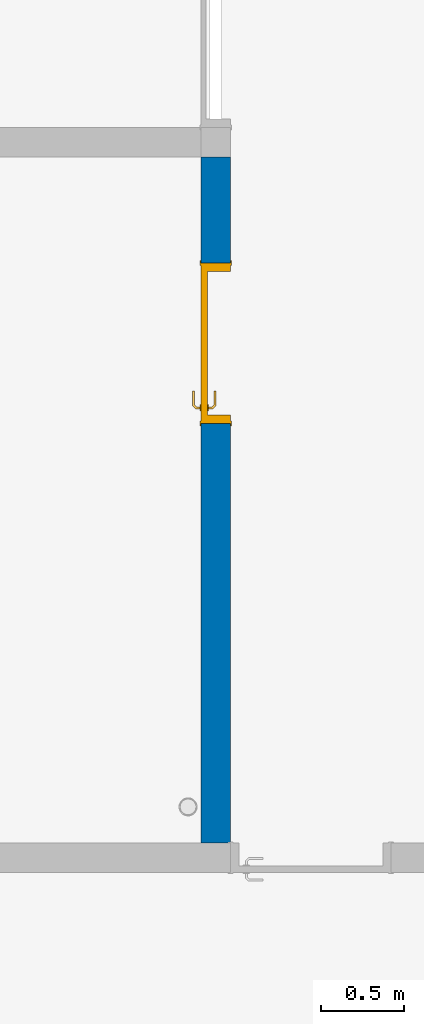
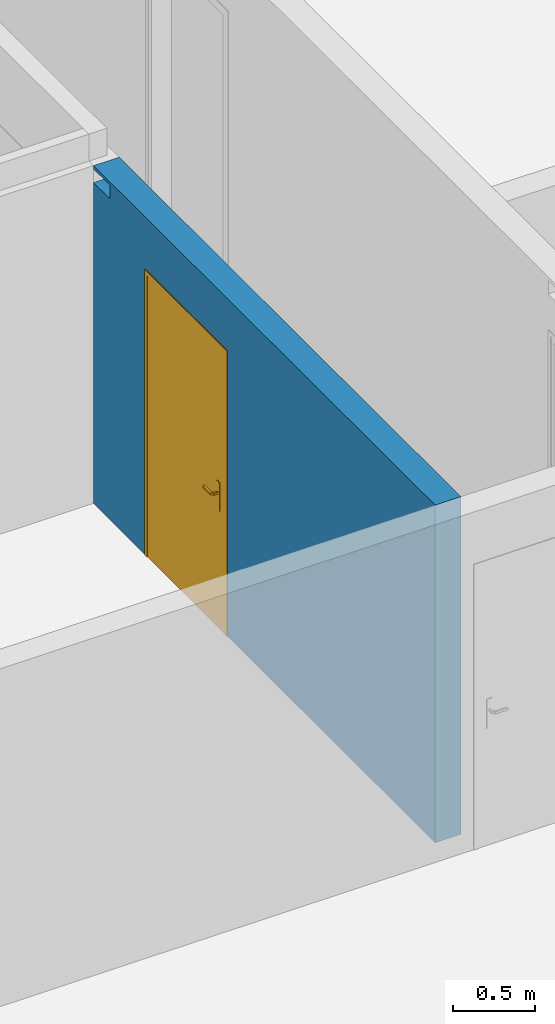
# One storey, part 4 of 30: 1 door, 1 wall, 2 openings.
"""IFC2X3 building model written with IfcOpenShell, lengths in centimetres."""

import ifcopenshell
import ifcopenshell.guid

model = None  # the IFC model being written
_history = None  # IfcOwnerHistory: only IFC2X3 demands one
_inside = {}  # id of a spatial element -> (the spatial element, [elements in it])
_under = {}  # id of a project, library or spatial element -> (it, [spatial elements below it])
_declared = {}  # id of a project -> (the project, [libraries it declares])
_typed = {}  # id of a type object -> (the type object, [elements of that type])
_made_of = {}  # id of a material, layer set ... -> (it, [elements and type objects made of it])


def new_model(schema):
    """Start an empty IFC model of exactly this schema.

    Asked for "IFC4X3", IfcOpenShell would pick the latest addendum, in which some entities
    have other attributes; the version numbers below select the first issue.
    IFC2X3 requires an IfcOwnerHistory on every rooted entity: one is made here for all.
    """
    global model, _history
    if schema == "IFC4X3":
        model = ifcopenshell.file(schema_version=(4, 3, 0, 0))
    else:
        model = ifcopenshell.file(schema=schema)
    _inside.clear()
    _under.clear()
    _declared.clear()
    _typed.clear()
    _made_of.clear()
    _history = None
    if model.schema == "IFC2X3":
        org = make("IfcOrganization", Name="unknown")
        user = make(
            "IfcPersonAndOrganization",
            ThePerson=make("IfcPerson", FamilyName="unknown"),
            TheOrganization=org,
        )
        app = make(
            "IfcApplication",
            ApplicationDeveloper=org,
            Version="unknown",
            ApplicationFullName="unknown",
            ApplicationIdentifier="unknown",
        )
        _history = make(
            "IfcOwnerHistory",
            OwningUser=user,
            OwningApplication=app,
            ChangeAction="ADDED",
            CreationDate=0,
        )
    return model


def make(cls, **values):
    """One entity of the class cls with the attributes given. An attribute that is None is left unset."""
    return model.create_entity(
        cls, **{name: value for name, value in values.items() if value is not None}
    )


def entity(cls, *values):
    """Any entity or typed value of the class cls, its attributes in the order of the schema. None: left unset."""
    e = model.create_entity(cls)
    for i, value in enumerate(values):
        if value is not None:
            e[i] = value
    return e


def rooted(cls, **values):
    """An entity with a GlobalId (a new one), such as an element, a storey or a relation."""
    return make(cls, GlobalId=ifcopenshell.guid.new(), OwnerHistory=_history, **values)


def si_unit(unit_type, name, prefix=None):
    """IfcSIUnit, for example si_unit("LENGTHUNIT", "METRE", prefix="MILLI")."""
    return make("IfcSIUnit", UnitType=unit_type, Prefix=prefix, Name=name)


def converted_unit(unit_type, name, factor, base, dimensions=None, offset=None):
    """IfcConversionBasedUnit, such as the inch: factor (a typed value) times the base unit."""
    return make(
        "IfcConversionBasedUnit"
        if offset is None
        else "IfcConversionBasedUnitWithOffset",
        ConversionOffset=offset,
        Dimensions=None
        if dimensions is None
        else entity("IfcDimensionalExponents", *dimensions),
        UnitType=unit_type,
        Name=name,
        ConversionFactor=make(
            "IfcMeasureWithUnit", ValueComponent=factor, UnitComponent=base
        ),
    )


def derived_unit(unit_type, elements):
    """IfcDerivedUnit: a product of units, each with its exponent."""
    return make(
        "IfcDerivedUnit",
        Elements=[
            make("IfcDerivedUnitElement", Unit=unit, Exponent=power)
            for unit, power in elements
        ],
        UnitType=unit_type,
    )


def assignment(units):
    """IfcUnitAssignment: the units of a project."""
    return None if units is None else make("IfcUnitAssignment", Units=units)


def point(xyz):
    """IfcCartesianPoint."""
    return None if xyz is None else make("IfcCartesianPoint", Coordinates=xyz)


def direction(xyz):
    """IfcDirection."""
    return None if xyz is None else make("IfcDirection", DirectionRatios=xyz)


def frame(location, z_axis=None, x_axis=None):
    """IfcAxis2Placement3D, a coordinate frame: its origin and axes. An axis left out is left unset."""
    return make(
        "IfcAxis2Placement3D",
        Location=point(location),
        Axis=direction(z_axis),
        RefDirection=direction(x_axis),
    )


def frame_2d(location, x_axis=None):
    """IfcAxis2Placement2D, a coordinate frame in the plane: its origin and x axis."""
    return make(
        "IfcAxis2Placement2D", Location=point(location), RefDirection=direction(x_axis)
    )


def origin():
    """The frame at (0, 0, 0) with its axes left unset."""
    return frame((0.0, 0.0, 0.0))


def place(relative_to, where):
    """IfcLocalPlacement: puts the frame where relative to a parent placement (None: the world)."""
    return make(
        "IfcLocalPlacement", PlacementRelTo=relative_to, RelativePlacement=where
    )


def context(
    kind, dimensions, precision=None, world=None, true_north=None, identifier=None
):
    """IfcGeometricRepresentationContext, for example the 3D "Model" context."""
    return make(
        "IfcGeometricRepresentationContext",
        ContextIdentifier=identifier,
        ContextType=kind,
        CoordinateSpaceDimension=dimensions,
        Precision=precision,
        WorldCoordinateSystem=world,
        TrueNorth=true_north,
    )


def subcontext(parent, identifier, kind, view, scale=None):
    """IfcGeometricRepresentationSubContext, for example "Body" below "Model"."""
    return make(
        "IfcGeometricRepresentationSubContext",
        ContextIdentifier=identifier,
        ContextType=kind,
        ParentContext=parent,
        TargetScale=scale,
        TargetView=view,
    )


def project(units=None, contexts=None):
    """IfcProject with its units and contexts."""
    return rooted(
        "IfcProject",
        Name="project",
        RepresentationContexts=contexts,
        UnitsInContext=assignment(units),
    )


def spatial(cls, under=None, at=None, **own):
    """A site, building, storey or space (cls), placed at a placement, below another one or the project."""
    s = rooted(cls, ObjectPlacement=at, **own)
    if under is not None:
        _under.setdefault(under.id(), (under, []))[1].append(s)
    return s


def profile(cls, at=None, kind="AREA", **sizes):
    """A parametric profile (cls). Its sizes go by their IFC names, for example OverallWidth=200.0."""
    return make(cls, ProfileType=kind, Position=at, **sizes)


def rectangle(**sizes):
    """IfcRectangleProfileDef."""
    return profile("IfcRectangleProfileDef", **sizes)


def extrude(swept, where, along, depth):
    """IfcExtrudedAreaSolid: the profile swept, set in the frame where, extruded along a direction by depth."""
    return make(
        "IfcExtrudedAreaSolid",
        SweptArea=swept,
        Position=where,
        ExtrudedDirection=direction(along),
        Depth=depth,
    )


def faces_of(points, faces, orient=None, outer=None):
    """IfcFace entities. A face is a list of loops; a loop is a list of indices into points, from 0.

    orient and outer hold one flag for each loop. By default every Orientation is true, the
    first loop of a face is its IfcFaceOuterBound and the others are IfcFaceBound.
    """
    made = []
    for i, loops in enumerate(faces):
        bounds = []
        for j, loop in enumerate(loops):
            is_outer = j == 0 if outer is None else outer[i][j]
            bounds.append(
                make(
                    "IfcFaceOuterBound" if is_outer else "IfcFaceBound",
                    Bound=make("IfcPolyLoop", Polygon=[points[k] for k in loop]),
                    Orientation=True if orient is None else orient[i][j],
                )
            )
        made.append(make("IfcFace", Bounds=bounds))
    return made


def faceted_brep(points, faces, orient=None, outer=None, voids=None):
    """IfcFacetedBrep: a solid bounded by flat faces; with voids (closed shells), ...WithVoids."""
    shared = [point(p) for p in points]
    hull = make("IfcClosedShell", CfsFaces=faces_of(shared, faces, orient, outer))
    if voids is None:
        return make("IfcFacetedBrep", Outer=hull)
    return make(
        "IfcFacetedBrepWithVoids",
        Outer=hull,
        Voids=[
            make(cls, CfsFaces=faces_of(shared, fs, o, b)) for cls, fs, o, b in voids
        ],
    )


def shape(context_of_items, identifier, shape_type, items):
    """IfcShapeRepresentation: the items that make up one representation, for example the "Body"."""
    return make(
        "IfcShapeRepresentation",
        ContextOfItems=context_of_items,
        RepresentationIdentifier=identifier,
        RepresentationType=shape_type,
        Items=items,
    )


def source(mapping_origin, context_of_items, identifier, shape_type, items):
    """IfcRepresentationMap: a shape defined once, which mapped items show again and again."""
    return make(
        "IfcRepresentationMap",
        MappingOrigin=mapping_origin,
        MappedRepresentation=shape(context_of_items, identifier, shape_type, items),
    )


def transform(
    local_origin,
    x_axis=None,
    y_axis=None,
    z_axis=None,
    scale=None,
    scale2=None,
    scale3=None,
    uniform=True,
):
    """IfcCartesianTransformationOperator3D, or its non-uniform kind. x_axis, y_axis, z_axis: its Axis1, 2, 3."""
    if uniform:
        return make(
            "IfcCartesianTransformationOperator3D",
            Axis1=direction(x_axis),
            Axis2=direction(y_axis),
            LocalOrigin=point(local_origin),
            Scale=scale,
            Axis3=direction(z_axis),
        )
    return make(
        "IfcCartesianTransformationOperator3DnonUniform",
        Axis1=direction(x_axis),
        Axis2=direction(y_axis),
        LocalOrigin=point(local_origin),
        Scale=scale,
        Axis3=direction(z_axis),
        Scale2=scale2,
        Scale3=scale3,
    )


def mapped(mapping_source, mapping_target):
    """IfcMappedItem: shows the shape of a source again, moved by a transform."""
    return make(
        "IfcMappedItem", MappingSource=mapping_source, MappingTarget=mapping_target
    )


def material(Name=None, Category=None):
    """IfcMaterial."""
    return make("IfcMaterial", Name=Name, Category=Category)


def material_list(materials):
    """IfcMaterialList."""
    return make("IfcMaterialList", Materials=materials)


def layer(
    of_material, thickness, ventilated=None, Name=None, Category=None, Priority=None
):
    """IfcMaterialLayer: one layer of a wall or slab, of a material (None: an air gap)."""
    return make(
        "IfcMaterialLayer",
        Material=of_material,
        LayerThickness=thickness,
        IsVentilated=ventilated,
        Name=Name,
        Category=Category,
        Priority=Priority,
    )


def layer_set(layers, Name=None):
    """IfcMaterialLayerSet."""
    return make("IfcMaterialLayerSet", MaterialLayers=layers, LayerSetName=Name)


def layer_usage(for_layer_set, set_direction, sense, offset, extent=None):
    """IfcMaterialLayerSetUsage: how a layer set lies in its element."""
    return make(
        "IfcMaterialLayerSetUsage",
        ForLayerSet=for_layer_set,
        LayerSetDirection=set_direction,
        DirectionSense=sense,
        OffsetFromReferenceLine=offset,
        ReferenceExtent=extent,
    )


def made_of(thing, what):
    """Note that an element or type object is made of a material, layer set ...; save() writes the relation."""
    if what is not None:
        _made_of.setdefault(what.id(), (what, []))[1].append(thing)
    return thing


def type_object(cls, material=None, **own):
    """A type object (cls), such as IfcWallType, which elements share."""
    return made_of(rooted(cls, **own), material)


def type_shapes(of_type, sources):
    """Give a type object the sources (RepresentationMaps) that its elements show as mapped items."""
    of_type.RepresentationMaps = sources


def element(
    cls,
    number,
    at=None,
    inside=None,
    cuts=None,
    type_object=None,
    material=None,
    context=None,
    identifier="Body",
    shape_type=None,
    held_by="IfcProductDefinitionShape",
    body=None,
    shapes=None,
    **own,
):
    """One element of the class cls, such as IfcWall. Its Tag is "e" and its number.

    at: its placement. inside: the storey or other place that contains it. cuts: it is an
    opening in that element (IfcRelVoidsElement). A single representation is given by context,
    identifier, shape_type and body (its items); several are given by shapes. held_by: the class
    of the entity that holds the representations. save() writes the other relations.
    """
    e = rooted(cls, Tag="e%d" % number, ObjectPlacement=at, **own)
    if body is not None:
        shapes = [shape(context, identifier, shape_type, body)]
    if shapes is not None:
        e.Representation = make(held_by, Representations=shapes)
    if inside is not None:
        _inside.setdefault(inside.id(), (inside, []))[1].append(e)
    if cuts is not None:
        rooted(
            "IfcRelVoidsElement", RelatingBuildingElement=cuts, RelatedOpeningElement=e
        )
    if type_object is not None:
        _typed.setdefault(type_object.id(), (type_object, []))[1].append(e)
    return made_of(e, material)


def fill(opening, filler):
    """IfcRelFillsElement: the door or window that sits in an opening."""
    return rooted(
        "IfcRelFillsElement",
        RelatingOpeningElement=opening,
        RelatedBuildingElement=filler,
    )


def aggregate(whole, parts):
    """IfcRelAggregates: a whole, such as a stair, and the parts it consists of."""
    return rooted("IfcRelAggregates", RelatingObject=whole, RelatedObjects=parts)


def save(model, path):
    """Write the relations noted so far, then the file.

    IfcRelAggregates (storeys below a building ...), IfcRelContainedInSpatialStructure (elements
    in a storey), IfcRelDefinesByType, IfcRelAssociatesMaterial and IfcRelDeclares: one each for
    every whole, place, type object, material and project.
    """
    for whole, parts in _under.values():
        aggregate(whole, parts)
    for where, things in _inside.values():
        rooted(
            "IfcRelContainedInSpatialStructure",
            RelatedElements=things,
            RelatingStructure=where,
        )
    for kind, things in _typed.values():
        rooted("IfcRelDefinesByType", RelatedObjects=things, RelatingType=kind)
    for what, things in _made_of.values():
        rooted("IfcRelAssociatesMaterial", RelatedObjects=things, RelatingMaterial=what)
    for by, libraries in _declared.values():
        rooted("IfcRelDeclares", RelatingContext=by, RelatedDefinitions=libraries)
    model.write(path)


model = new_model("IFC2X3")

# Units and contexts
model_context = context("Model", 3, precision=0.001, world=origin(), true_north=direction((6.12303176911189e-17, 1.0)))
body_context = subcontext(model_context, "Body", "Model", "MODEL_VIEW")
ifc_project = project(units=[si_unit("LENGTHUNIT", "METRE", prefix="CENTI"), si_unit("AREAUNIT", "SQUARE_METRE"), si_unit("VOLUMEUNIT", "CUBIC_METRE"), converted_unit("PLANEANGLEUNIT", "DEGREE", entity("IfcRatioMeasure", 0.0174532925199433), si_unit("PLANEANGLEUNIT", "RADIAN"), dimensions=[0, 0, 0, 0, 0, 0, 0]), si_unit("MASSUNIT", "GRAM", prefix="KILO"), derived_unit("MASSDENSITYUNIT", [(si_unit("MASSUNIT", "GRAM", prefix="KILO"), 1), (si_unit("LENGTHUNIT", "METRE"), -3)]), si_unit("TIMEUNIT", "SECOND"), si_unit("FREQUENCYUNIT", "HERTZ"), si_unit("THERMODYNAMICTEMPERATUREUNIT", "DEGREE_CELSIUS"), derived_unit("THERMALTRANSMITTANCEUNIT", [(si_unit("MASSUNIT", "GRAM", prefix="KILO"), 1), (si_unit("THERMODYNAMICTEMPERATUREUNIT", "KELVIN"), -1), (si_unit("TIMEUNIT", "SECOND"), -3)]), derived_unit("VOLUMETRICFLOWRATEUNIT", [(si_unit("LENGTHUNIT", "METRE"), 3), (si_unit("TIMEUNIT", "SECOND"), -1)]), si_unit("ELECTRICCURRENTUNIT", "AMPERE"), si_unit("ELECTRICVOLTAGEUNIT", "VOLT"), si_unit("POWERUNIT", "WATT"), si_unit("FORCEUNIT", "NEWTON"), si_unit("ILLUMINANCEUNIT", "LUX"), si_unit("LUMINOUSFLUXUNIT", "LUMEN"), si_unit("LUMINOUSINTENSITYUNIT", "CANDELA"), derived_unit("USERDEFINED", [(si_unit("MASSUNIT", "GRAM", prefix="KILO"), -1), (si_unit("LENGTHUNIT", "METRE"), -2), (si_unit("TIMEUNIT", "SECOND"), 3), (si_unit("LUMINOUSFLUXUNIT", "LUMEN"), 1)]), derived_unit("LINEARVELOCITYUNIT", [(si_unit("LENGTHUNIT", "METRE"), 1), (si_unit("TIMEUNIT", "SECOND"), -1)]), si_unit("PRESSUREUNIT", "PASCAL"), derived_unit("USERDEFINED", [(si_unit("LENGTHUNIT", "METRE"), -2), (si_unit("MASSUNIT", "GRAM", prefix="KILO"), 1), (si_unit("TIMEUNIT", "SECOND"), -2)])], contexts=[model_context])

# Site, building, storey
site_placement = place(None, origin())
site = spatial("IfcSite", under=ifc_project, at=site_placement, Name="Default", CompositionType="ELEMENT")
building_placement = place(site_placement, origin())
building = spatial("IfcBuilding", under=site, at=building_placement, Name="CAGE 03", CompositionType="ELEMENT")
storey_placement = place(building_placement, frame((0.0, 0.0, 610.0)))
storey = spatial("IfcBuildingStorey", under=building, at=storey_placement, Name="R+2", CompositionType="ELEMENT", Elevation=610.0)

# Wall, openings, door
ifc_material_1 = material(Name="Béton, C25/30")
ifc_layer = layer(ifc_material_1, 18.0)
ifc_layer_set = layer_set([ifc_layer], Name="Mur de base:Voile BA 18")
ifc_layer_usage = layer_usage(ifc_layer_set, "AXIS2", "NEGATIVE", 9.0)
wall_type = type_object("IfcWallType", Name="Mur de base:Voile BA 18", PredefinedType="STANDARD", material=ifc_layer_set)
wall_placement = place(storey_placement, frame((3963.36582014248, 4632.66066607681, 0.0), z_axis=(0.0, 0.0, 1.0), x_axis=(0.0, -1.0, 0.0)))
wall = element("IfcWallStandardCase", 1, at=wall_placement, inside=storey, type_object=wall_type, material=ifc_layer_usage, Name="Mur de base:Voile BA 18", ObjectType="Mur de base:Voile BA 18", context=body_context, shape_type="SweptSolid", body=[
    extrude(rectangle(XDim=414.499999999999, YDim=17.9999999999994, at=frame_2d((207.25, 3.29514193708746e-13), x_axis=(-1.0, 0.0))), origin(), (0.0, 0.0, 1.0), 250.0),
])
opening_1_placement = place(wall_placement, origin())
element("IfcOpeningElement", 2, at=opening_1_placement, cuts=wall, Name="Mur de base:Voile BA 18", ObjectType="Opening", context=body_context, shape_type="SweptSolid", body=[
    extrude(rectangle(XDim=10.0, YDim=19.9999999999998, at=frame_2d((5.41788836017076e-14, -4.33431068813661e-13), x_axis=(1.0, 0.0))), frame((10.0, -9.0, 242.5), z_axis=(0.0, 1.0, 0.0), x_axis=(0.0, 0.0, -1.0)), (0.0, 0.0, 1.0), 17.9999999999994),
])
opening_2_placement = place(wall_placement, frame((161.0, 9.0, 0.0)))
opening_2 = element("IfcOpeningElement", 3, at=opening_2_placement, cuts=wall, Name="Int. Simple:HB93:1", ObjectType="Opening", context=body_context, shape_type="SweptSolid", body=[
    extrude(rectangle(XDim=210.000000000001, YDim=96.9999999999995, at=frame_2d((105.000000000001, 48.4999999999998), x_axis=(1.0, 0.0))), frame((0.0, 0.0, 0.0), z_axis=(0.0, -1.0, 0.0), x_axis=(0.0, 0.0, 1.0)), (0.0, 0.0, 1.0), 18.0),
])
ifc_material_2 = material(Name="Finition Peinture - Blanc satiné")
ifc_material_3 = material(Name="Bois - Panneau de porte")
ifc_material_4 = material(Name="Bois - Cadre de porte")
ifc_material_list_1 = material_list([ifc_material_2, ifc_material_3, ifc_material_4])
ifc_material_list_2 = material_list([ifc_material_2, ifc_material_3, ifc_material_4])
door_style = type_object("IfcDoorStyle", Name="HB93", ConstructionType="NOTDEFINED", OperationType="SINGLE_SWING_RIGHT", ParameterTakesPrecedence=False, Sizeable=False, material=ifc_material_list_2)
shared_shape = source(origin(), body_context, "Body", "Brep", [
    faceted_brep([(96.5000000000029, -0.500000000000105, 87.0), (96.5000000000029, -0.500000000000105, 108.0), (95.535276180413, -0.500000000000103, 108.399601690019), (94.5000000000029, -0.500000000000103, 108.535898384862), (93.4647238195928, -0.500000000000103, 108.399601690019), (92.5000000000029, -0.500000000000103, 108.0), (92.5000000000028, -0.500000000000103, 87.0), (93.4647238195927, -0.500000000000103, 86.6003983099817), (94.5000000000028, -0.500000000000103, 86.464101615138), (95.5352761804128, -0.500000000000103, 86.6003983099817), (96.5000000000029, 0.0, 108.0), (96.5000000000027, 0.0, 87.0), (95.5352761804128, 0.0, 86.6003983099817), (94.5000000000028, 0.0, 86.464101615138), (93.4647238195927, 0.0, 86.6003983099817), (92.5000000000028, 0.0, 87.0), (92.5000000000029, 0.0, 108.0), (93.4647238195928, 0.0, 108.399601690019), (94.5000000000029, 0.0, 108.535898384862), (95.535276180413, 0.0, 108.399601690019)], [[[0, 1, 2, 3, 4, 5, 6, 7, 8, 9]], [[10, 11, 12, 13, 14, 15, 16, 17, 18, 19]], [[9, 12, 11, 0]], [[8, 13, 12, 9]], [[7, 14, 13, 8]], [[7, 6, 15, 14]], [[15, 6, 5, 16]], [[4, 17, 16, 5]], [[3, 18, 17, 4]], [[2, 19, 18, 3]], [[2, 1, 10, 19]], [[11, 10, 1, 0]]]),
    faceted_brep([(96.5000000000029, 4.0, 87.0), (96.5000000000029, 4.0, 108.0), (95.535276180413, 4.0, 108.399601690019), (94.5000000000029, 4.0, 108.535898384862), (93.4647238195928, 4.0, 108.399601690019), (92.500000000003, 4.0, 108.0), (92.5000000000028, 4.0, 87.0), (93.4647238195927, 4.0, 86.6003983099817), (94.5000000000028, 4.0, 86.464101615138), (95.5352761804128, 4.0, 86.6003983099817), (94.5000000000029, 4.49999999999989, 108.535898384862), (95.535276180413, 4.49999999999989, 108.399601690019), (96.5000000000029, 4.49999999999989, 108.0), (96.5000000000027, 4.49999999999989, 87.0), (95.5352761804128, 4.49999999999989, 86.6003983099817), (94.5000000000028, 4.49999999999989, 86.464101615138), (93.4647238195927, 4.49999999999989, 86.6003983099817), (92.5000000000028, 4.4999999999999, 87.0), (92.5000000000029, 4.4999999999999, 108.0), (93.4647238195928, 4.49999999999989, 108.399601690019)], [[[0, 1, 2, 3, 4, 5, 6, 7, 8, 9]], [[10, 11, 12, 13, 14, 15, 16, 17, 18, 19]], [[4, 19, 18, 5]], [[3, 10, 19, 4]], [[2, 11, 10, 3]], [[2, 1, 12, 11]], [[13, 12, 1, 0]], [[9, 14, 13, 0]], [[8, 15, 14, 9]], [[7, 16, 15, 8]], [[7, 6, 17, 16]], [[17, 6, 5, 18]]]),
    faceted_brep([(94.2974701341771, -0.500000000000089, 100.778044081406), (94.7025298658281, -0.500000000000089, 100.778044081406), (95.100000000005, -0.500000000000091, 100.699999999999), (95.100000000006, -0.500000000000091, 99.2999999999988), (94.7025298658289, -0.500000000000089, 99.221955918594), (94.297470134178, -0.500000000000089, 99.2219559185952), (93.9000000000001, -0.500000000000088, 99.3000000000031), (93.9000000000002, -0.500000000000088, 100.7), (94.7025298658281, -3.10045754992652, 100.778044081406), (95.1000000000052, -3.26509507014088, 100.7), (94.2974701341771, -2.93267631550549, 100.778044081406), (92.9298602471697, -4.30028620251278, 100.778044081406), (93.0976414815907, -4.70534593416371, 100.778044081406), (93.9000000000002, -2.76803879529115, 100.7), (93.9000000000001, -2.76803879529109, 99.3000000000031), (94.297470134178, -2.93267631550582, 99.2219559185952), (94.7025298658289, -3.10045754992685, 99.221955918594), (93.0976414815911, -4.70534593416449, 99.221955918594), (92.9298602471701, -4.30028620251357, 99.2219559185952), (95.100000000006, -3.26509507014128, 99.2999999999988), (93.2622790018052, -5.1028160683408, 100.7), (92.7652227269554, -3.90281606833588, 100.7), (92.7652227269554, -3.90281606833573, 99.3000000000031), (93.2622790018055, -5.10281606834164, 99.2999999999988), (84.4981359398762, -5.10281606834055, 100.7), (84.4981359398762, -4.70534593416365, 100.778044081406), (84.4981359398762, -4.30028620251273, 100.778044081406), (84.4981359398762, -3.90281606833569, 100.699999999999), (84.4981359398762, -3.90281606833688, 99.3000000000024), (84.4981359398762, -4.30028620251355, 99.2219559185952), (84.4981359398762, -4.70534593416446, 99.221955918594), (84.4981359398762, -5.10281606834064, 99.2999999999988), (88.7139980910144, -4.5028160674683, 100.78786867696), (89.2692302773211, -5.1028160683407, 100.7), (88.6316793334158, -3.90281606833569, 100.7), (88.631679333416, -3.90281606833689, 99.3000000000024), (88.7139981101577, -4.50281607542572, 99.2121313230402), (89.2692310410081, -5.10281606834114, 99.2999999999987)], [[[0, 1, 2, 3, 4, 5, 6, 7]], [[2, 1, 8, 9]], [[1, 0, 10, 11, 12, 8]], [[0, 7, 13, 10]], [[14, 13, 7, 6]], [[5, 15, 14, 6]], [[5, 4, 16, 17, 18, 15]], [[3, 19, 16, 4]], [[9, 19, 3, 2]], [[9, 8, 12, 20]], [[10, 13, 21, 11]], [[22, 21, 13, 14]], [[14, 15, 18, 22]], [[16, 19, 23, 17]], [[20, 23, 19, 9]], [[24, 25, 26, 27, 28, 29, 30, 31]], [[32, 25, 33]], [[33, 25, 24]], [[33, 20, 12]], [[11, 34, 32]], [[34, 11, 21]], [[27, 26, 34]], [[32, 26, 25]], [[32, 34, 26]], [[32, 33, 12]], [[11, 32, 12]], [[21, 22, 35, 28, 27, 34]], [[36, 29, 35]], [[30, 36, 37]], [[18, 35, 22]], [[29, 28, 35]], [[30, 37, 31]], [[37, 17, 23]], [[36, 17, 37]], [[36, 18, 17]], [[36, 35, 18]], [[29, 36, 30]], [[23, 20, 33, 24, 31, 37]]]),
    faceted_brep([(94.2974701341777, 4.49999999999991, 99.2219559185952), (94.7025298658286, 4.49999999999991, 99.221955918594), (95.1000000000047, 4.49999999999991, 99.2999999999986), (95.1000000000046, 4.49999999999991, 100.7), (94.7025298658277, 4.49999999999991, 100.778044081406), (94.2974701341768, 4.49999999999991, 100.778044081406), (93.8999999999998, 4.49999999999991, 100.7), (93.900000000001, 4.49999999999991, 99.3000000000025), (93.8999999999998, 6.7485204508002, 100.7), (93.8999999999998, 6.74852045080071, 99.3000000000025), (94.2974701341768, 6.91315797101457, 100.778044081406), (94.7025298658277, 7.0809392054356, 100.778044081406), (93.0838906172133, 8.69957845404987, 100.778044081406), (92.9161093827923, 8.29451872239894, 100.778044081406), (95.1000000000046, 7.24557672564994, 100.7), (95.1000000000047, 7.24557672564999, 99.2999999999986), (94.7025298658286, 7.08093920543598, 99.221955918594), (94.2974701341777, 6.91315797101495, 99.2219559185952), (92.9161093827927, 8.29451872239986, 99.2219559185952), (93.0838906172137, 8.69957845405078, 99.221955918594), (92.751471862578, 7.89704858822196, 100.7), (92.7514718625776, 7.89704858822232, 99.3000000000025), (93.2485281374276, 9.09704858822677, 100.7), (93.2485281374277, 9.09704858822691, 99.2999999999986), (84.4954216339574, 8.29451872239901, 100.778044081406), (84.4954216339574, 8.69957845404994, 100.778044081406), (84.4954216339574, 9.09704858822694, 100.7), (84.4954216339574, 9.09704858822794, 99.2999999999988), (84.4954216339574, 8.6995784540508, 99.221955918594), (84.4954216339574, 8.29451872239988, 99.2219559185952), (84.4954216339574, 7.89704858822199, 99.3000000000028), (84.4954216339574, 7.89704858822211, 100.7), (88.6234467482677, 7.89704858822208, 100.7), (88.6234479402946, 7.89704858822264, 99.3000000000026), (88.7057655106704, 8.49704858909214, 100.78786867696), (89.255479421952, 9.09704858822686, 100.7), (89.2554795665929, 9.09704858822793, 99.2999999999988), (88.7057654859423, 8.49704858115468, 99.2121313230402)], [[[0, 1, 2, 3, 4, 5, 6, 7]], [[8, 9, 7, 6]], [[5, 10, 8, 6]], [[5, 4, 11, 12, 13, 10]], [[3, 14, 11, 4]], [[14, 3, 2, 15]], [[2, 1, 16, 15]], [[1, 0, 17, 18, 19, 16]], [[0, 7, 9, 17]], [[20, 21, 9, 8]], [[8, 10, 13, 20]], [[14, 22, 12, 11]], [[23, 22, 14, 15]], [[15, 16, 19, 23]], [[17, 9, 21, 18]], [[24, 25, 26, 27, 28, 29, 30, 31]], [[21, 20, 32, 31, 30, 33]], [[34, 24, 32]], [[25, 34, 35]], [[13, 32, 20]], [[24, 31, 32]], [[25, 35, 26]], [[35, 12, 22]], [[34, 12, 35]], [[34, 13, 12]], [[34, 32, 13]], [[24, 34, 25]], [[22, 23, 36, 27, 26, 35]], [[37, 28, 36]], [[36, 28, 27]], [[36, 23, 19]], [[18, 33, 37]], [[33, 18, 21]], [[30, 29, 33]], [[37, 29, 28]], [[37, 33, 29]], [[37, 36, 19]], [[18, 37, 19]]]),
    faceted_brep([(100.500000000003, 4.0, 206.5), (100.500000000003, 4.0, 0.0), (10.5000000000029, 4.0, 0.0), (10.5000000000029, 4.0, 206.5), (100.500000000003, 0.0, 206.5), (10.5000000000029, 0.0, 206.5), (10.5000000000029, 0.0, 0.0), (100.500000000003, 0.0, 0.0)], [[[0, 1, 2, 3]], [[4, 5, 6, 7]], [[3, 5, 4, 0]], [[2, 6, 5, 3]], [[1, 7, 6, 2]], [[0, 4, 7, 1]]]),
    faceted_brep([(104.0, 0.0, 0.0), (100.500000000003, 0.0, 0.0), (100.500000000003, 4.0, 0.0), (99.0, 4.0, 0.0), (99.0, 18.0, 0.0), (104.0, 18.0, 0.0), (104.0, 18.0, 210.0), (104.0, 0.0, 210.0), (99.0, 18.0, 205.0), (12.0, 18.0, 205.0), (12.0, 18.0, 0.0), (7.0, 18.0, 0.0), (7.0, 18.0, 210.0), (99.0, 4.0, 205.0), (100.500000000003, 4.0, 206.5), (10.5000000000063, 4.0, 206.5), (10.5000000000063, 4.0, 0.0), (12.0, 4.0, 0.0), (12.0, 4.0, 205.0), (100.500000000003, 0.0, 206.5), (7.0, 0.0, 210.0), (7.0, 0.0, 0.0), (10.5000000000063, 0.0, 0.0), (10.5000000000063, 0.0, 206.5)], [[[0, 1, 2, 3, 4, 5]], [[5, 6, 7, 0]], [[4, 8, 9, 10, 11, 12, 6, 5]], [[3, 13, 8, 4]], [[2, 14, 15, 16, 17, 18, 13, 3]], [[1, 19, 14, 2]], [[0, 7, 20, 21, 22, 23, 19, 1]], [[12, 11, 21, 20]], [[21, 11, 10, 17, 16, 22]], [[18, 17, 10, 9]], [[23, 22, 16, 15]], [[6, 12, 20, 7]], [[13, 18, 9, 8]], [[19, 23, 15, 14]]]),
    faceted_brep([(102.500000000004, 18.0, 0.0), (102.500000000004, 18.5000000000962, 0.0), (105.500000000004, 18.5000000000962, 0.0), (105.500000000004, 18.0, 0.0), (105.500000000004, 18.0, 211.500000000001), (5.50000000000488, 18.0, 211.500000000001), (5.50000000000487, 18.0, 0.0), (8.50000000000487, 18.0, 0.0), (8.50000000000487, 18.0, 208.500000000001), (102.500000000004, 18.0, 208.500000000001), (105.500000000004, 18.5000000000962, 211.500000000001), (102.500000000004, 18.5000000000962, 208.500000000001), (8.50000000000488, 18.5000000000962, 208.500000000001), (8.50000000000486, 18.5000000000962, 0.0), (5.50000000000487, 18.5000000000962, 0.0), (5.50000000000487, 18.5000000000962, 211.500000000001)], [[[0, 1, 2, 3]], [[3, 4, 5, 6, 7, 8, 9, 0]], [[2, 10, 4, 3]], [[1, 11, 12, 13, 14, 15, 10, 2]], [[0, 9, 11, 1]], [[7, 6, 14, 13]], [[8, 7, 13, 12]], [[15, 14, 6, 5]], [[10, 15, 5, 4]], [[9, 8, 12, 11]]]),
    faceted_brep([(105.500000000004, -0.5, 0.0), (105.500000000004, -0.5, 211.500000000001), (5.50000000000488, -0.5, 211.500000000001), (5.50000000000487, -0.5, 0.0), (8.50000000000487, -0.5, 0.0), (8.50000000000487, -0.5, 208.500000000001), (102.500000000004, -0.5, 208.500000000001), (102.500000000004, -0.5, 0.0), (105.500000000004, 0.0, 0.0), (105.500000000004, 0.0, 211.500000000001), (102.500000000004, 0.0, 0.0), (102.500000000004, 0.0, 208.500000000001), (8.50000000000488, 0.0, 208.500000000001), (8.50000000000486, 0.0, 0.0), (5.50000000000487, 0.0, 0.0), (5.50000000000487, 0.0, 211.500000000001)], [[[0, 1, 2, 3, 4, 5, 6, 7]], [[8, 9, 1, 0]], [[10, 11, 12, 13, 14, 15, 9, 8]], [[7, 6, 11, 10]], [[5, 4, 13, 12]], [[15, 14, 3, 2]], [[9, 15, 2, 1]], [[6, 5, 12, 11]], [[4, 3, 14, 13]], [[7, 10, 8, 0]]]),
])
type_shapes(door_style, [shared_shape])
door_placement = place(opening_2_placement, frame((-104.0, -18.0, 0.0)))
door = element("IfcDoor", 4, at=door_placement, inside=storey, type_object=door_style, material=ifc_material_list_1, Name="Int. Simple:HB93", ObjectType="HB93", OverallHeight=210.000000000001, OverallWidth=96.9999999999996, context=body_context, shape_type="MappedRepresentation", body=[
    mapped(shared_shape, transform((0.0, 0.0, 0.0), scale=1.0)),
])
fill(opening_2, door)

save(model, "model.ifc")
